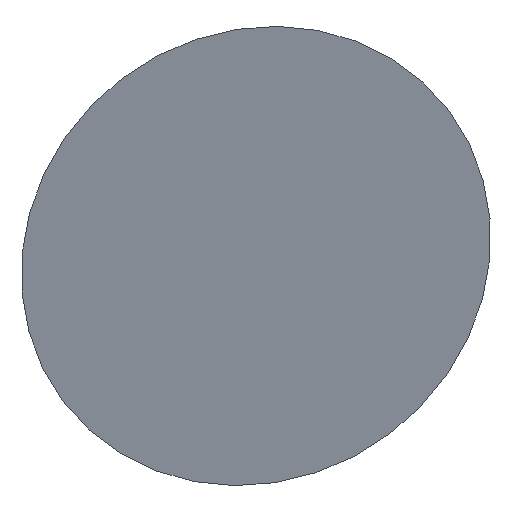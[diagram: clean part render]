
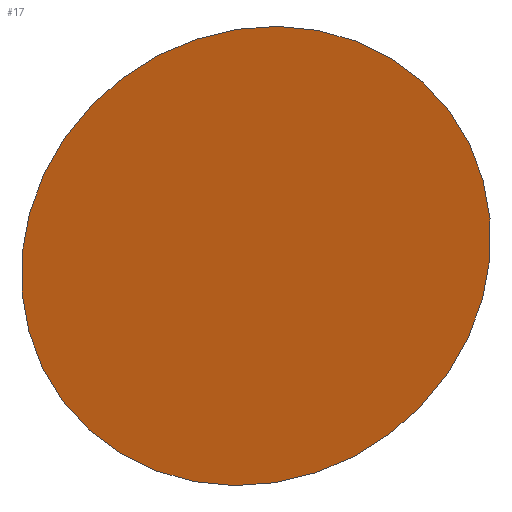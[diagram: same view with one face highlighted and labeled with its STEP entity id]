
A CAD part, top view. The second image highlights one B-rep face of the part: STEP entity #17.
In plain terms, the highlighted planar face has unit normal (0.235, -0.312, 0.92).
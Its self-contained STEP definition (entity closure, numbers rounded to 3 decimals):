
#17 = ADVANCED_FACE('',(#18),#29,.T.);
#18 = FACE_BOUND('',#19,.F.);
#19 = EDGE_LOOP('',(#20));
#20 = ORIENTED_EDGE('',*,*,#21,.F.);
#21 = EDGE_CURVE('',#22,#22,#24,.T.);
#22 = VERTEX_POINT('',#23);
#23 = CARTESIAN_POINT('',(138.041,-44.343,
    105.615));
#24 = CIRCLE('',#25,10.);
#25 = AXIS2_PLACEMENT_3D('',#26,#27,#28);
#26 = CARTESIAN_POINT('',(130.054,-50.362,
    105.615));
#27 = DIRECTION('',(0.235,-0.312,0.921));
#28 = DIRECTION('',(0.799,0.602,0.));
#29 = PLANE('',#30);
#30 = AXIS2_PLACEMENT_3D('',#31,#32,#33);
#31 = CARTESIAN_POINT('',(130.054,-50.362,
    105.615));
#32 = DIRECTION('',(0.235,-0.312,0.921));
#33 = DIRECTION('',(0.799,0.602,0.));
